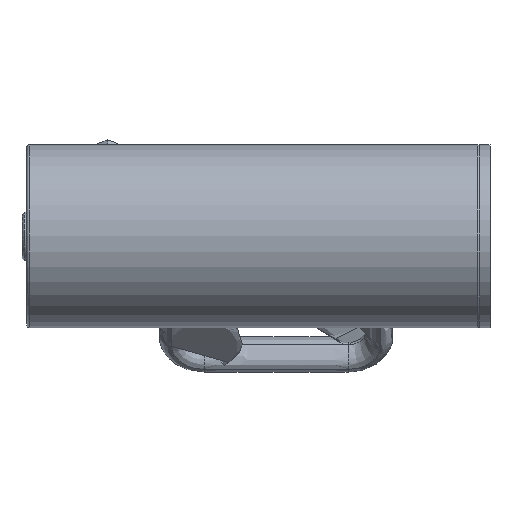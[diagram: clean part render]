
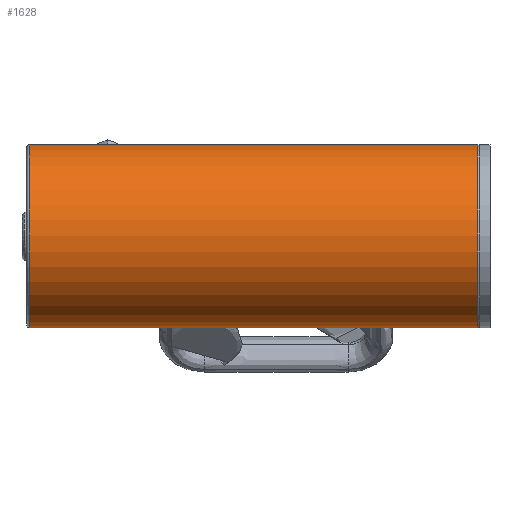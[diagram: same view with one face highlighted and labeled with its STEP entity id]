
A CAD part, top view. The second image highlights one B-rep face of the part: STEP entity #1628.
In plain terms, the highlighted cylindrical face has radius 56.5 mm (diameter 113 mm), a partial arc.
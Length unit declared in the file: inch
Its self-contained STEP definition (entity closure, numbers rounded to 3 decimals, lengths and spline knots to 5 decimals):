
#543=CARTESIAN_POINT('',(-9.78346,0.,0.));
#544=DIRECTION('',(-1.,0.,0.));
#545=DIRECTION('',(0.,-1.,0.));
#546=AXIS2_PLACEMENT_3D('',#543,#544,#545);
#1045=CARTESIAN_POINT('',(1.12205,0.,0.));
#1046=DIRECTION('',(-1.,0.,0.));
#1047=DIRECTION('',(0.,-1.,0.));
#1048=AXIS2_PLACEMENT_3D('',#1045,#1046,#1047);
#1060=DIRECTION('',(-1.,0.,0.));
#1061=VECTOR('',#1060,10.90551);
#1062=CARTESIAN_POINT('',(1.12205,-2.22441,
0.));
#1063=LINE('',#1062,#1061);
#1064=DIRECTION('',(-1.,0.,0.));
#1065=VECTOR('',#1064,10.90551);
#1066=CARTESIAN_POINT('',(1.12205,2.22441,
0.));
#1067=LINE('',#1066,#1065);
#1130=CARTESIAN_POINT('',(1.12205,-2.22441,0.));
#1131=CARTESIAN_POINT('',(1.12205,2.22441,0.));
#1132=VERTEX_POINT('',#1130);
#1133=VERTEX_POINT('',#1131);
#1142=CARTESIAN_POINT('',(-9.78346,-2.22441,0.));
#1143=CARTESIAN_POINT('',(-9.78346,2.22441,0.));
#1144=VERTEX_POINT('',#1142);
#1145=VERTEX_POINT('',#1143);
#1617=CARTESIAN_POINT('',(-10.3937,0.,0.));
#1618=DIRECTION('',(1.,0.,0.));
#1619=DIRECTION('',(0.,1.,0.));
#1620=AXIS2_PLACEMENT_3D('',#1617,#1618,#1619);
#1621=CYLINDRICAL_SURFACE('',#1620,2.22441);
#1622=ORIENTED_EDGE('',*,*,#1608,.F.);
#1623=ORIENTED_EDGE('',*,*,#1234,.T.);
#1624=ORIENTED_EDGE('',*,*,#1204,.T.);
#1625=ORIENTED_EDGE('',*,*,#1231,.F.);
#1626=EDGE_LOOP('',(#1622,#1623,#1624,#1625));
#1627=FACE_OUTER_BOUND('',#1626,.F.);
#1628=ADVANCED_FACE('',(#1627),#1621,.T.);
#547=CIRCLE('',#546,2.22441);
#1049=CIRCLE('',#1048,2.22441);
#1204=EDGE_CURVE('',#1144,#1145,#547,.T.);
#1231=EDGE_CURVE('',#1133,#1145,#1067,.T.);
#1234=EDGE_CURVE('',#1132,#1144,#1063,.T.);
#1608=EDGE_CURVE('',#1132,#1133,#1049,.T.);
